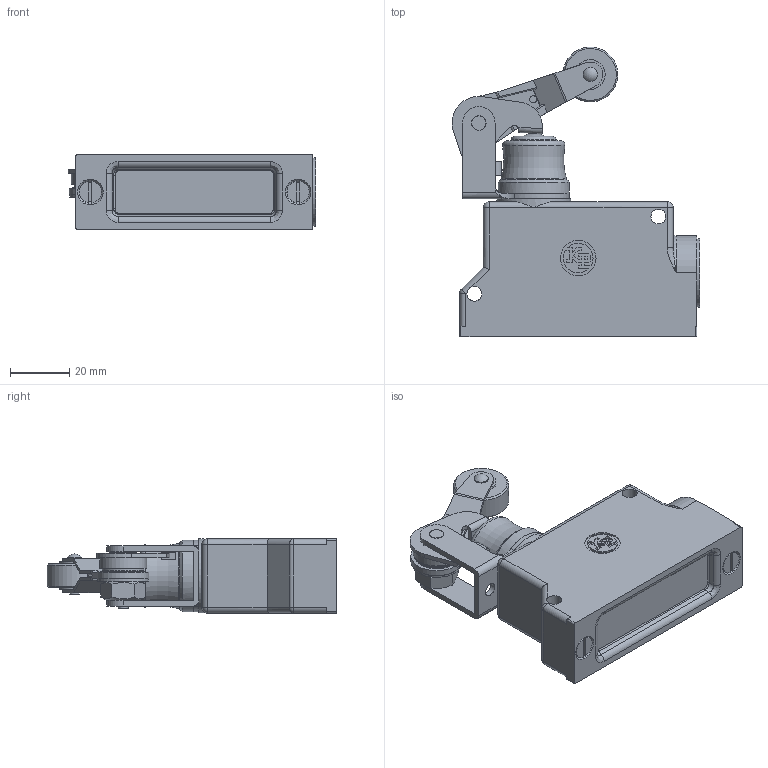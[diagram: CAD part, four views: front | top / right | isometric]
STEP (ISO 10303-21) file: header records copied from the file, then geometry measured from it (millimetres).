
FILE_DESCRIPTION(('Microrutor Basico Protegido Fixacao Lateral Atuador Alavanca Regulavel c/ Roldana e Botao Protegido'),'2;1');
FILE_NAME('E:\WorkFolder\Bibl\3DWeb\kp_mc_mc5w_step.stp','2013-01-11T11:16:10',('DIE'),('KAP'),'Autodesk Inventor 2011','Autodesk Inventor 2011','Direitos reservados. Proibido reproducao, cedencia ou revelacao de conteudo a terceiros, salvo com autorizacao.');
FILE_SCHEMA(('AUTOMOTIVE_DESIGN { 1 0 10303 214 1 1 1 1 }'));
Length unit declared in the file: millimetre
Products named in the file (3): MC5W_3D; MC_Caixa_5; MC_Atuador_W
Assembly tree (2 placements, depth 2):
  MC5W_3D
    MC_Caixa_5
    MC_Atuador_W
Bounding box: 83.5 x 97.6 x 25 mm (x, y, z)
Volume: 88319.4 mm3; surface area: 28281.8 mm2
Topology: 3 solids, 13 shells, 888 faces, 2709 edges, 1697 vertices
Faces by surface type: plane 567, cylinder 236, bspline 39, torus 18, cone 18, sphere 10
Full cylindrical faces by diameter (mm): 2.4 x4, 2.459 x1, 3 x5, 3.1 x1, 3.242 x2, 3.3 x2, 4 x2, 4.5 x1, 4.762 x1, 4.763 x1, 4.805 x2, 4.9 x1, 5 x5, 6 x1, 6.2 x1, 6.647 x1, 7 x4, 7.9 x1, 7.937 x3, 8 x1, 8.4 x2, 8.5 x1, 9 x1, 9.4 x1, 10 x2, 11 x1, 11.9 x1, 12 x1, 14 x2, 15 x1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
Entity records: 32061 total; most frequent: CARTESIAN_POINT 6771, DIRECTION 5245, ORIENTED_EDGE 5132, EDGE_CURVE 2566, AXIS2_PLACEMENT_3D 1934, VERTEX_POINT 1665, VECTOR 1377, LINE 1377
